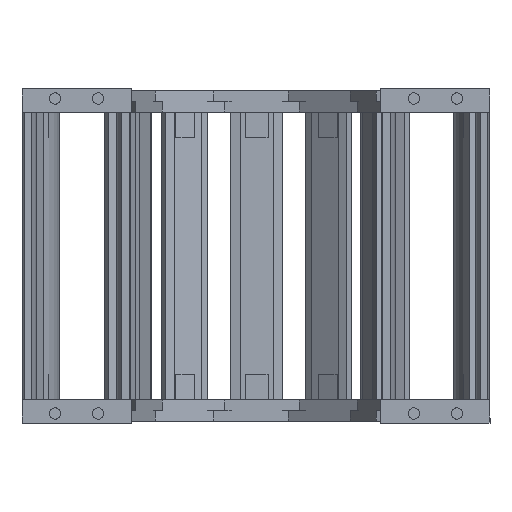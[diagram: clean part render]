
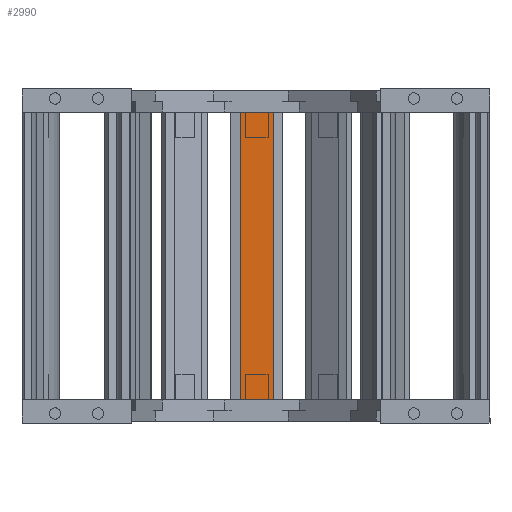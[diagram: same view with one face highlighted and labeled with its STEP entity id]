
A CAD part, left-side view. The second image highlights one B-rep face of the part: STEP entity #2990.
In plain terms, the highlighted planar face has unit normal (-1, 0.005, 0) as drawn and (0, -1, 0) by its records, which use the part's own axes.
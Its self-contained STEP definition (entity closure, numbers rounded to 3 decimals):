
#2823=DIRECTION('',(0.,0.,-1.));
#2824=VECTOR('',#2823,200.5);
#2825=CARTESIAN_POINT('',(-11.5,-72.,37.5));
#2826=LINE('',#2825,#2824);
#2852=DIRECTION('',(1.,0.,0.));
#2853=VECTOR('',#2852,23.);
#2854=CARTESIAN_POINT('',(-11.5,-72.,37.5));
#2855=LINE('',#2854,#2853);
#2909=DIRECTION('',(-1.,0.,0.));
#2910=VECTOR('',#2909,23.);
#2911=CARTESIAN_POINT('',(11.5,-72.,-163.));
#2912=LINE('',#2911,#2910);
#2937=DIRECTION('',(0.,0.,-1.));
#2938=VECTOR('',#2937,200.5);
#2939=CARTESIAN_POINT('',(11.5,-72.,37.5));
#2940=LINE('',#2939,#2938);
#2957=CARTESIAN_POINT('',(11.5,-72.,-163.));
#2958=VERTEX_POINT('',#2957);
#2959=CARTESIAN_POINT('',(-11.5,-72.,-163.));
#2960=VERTEX_POINT('',#2959);
#2969=CARTESIAN_POINT('',(11.5,-72.,37.5));
#2970=VERTEX_POINT('',#2969);
#2973=CARTESIAN_POINT('',(-11.5,-72.,37.5));
#2974=VERTEX_POINT('',#2973);
#2975=CARTESIAN_POINT('',(15.5,-72.,-163.));
#2976=DIRECTION('',(0.,1.,0.));
#2977=DIRECTION('',(-1.,0.,0.));
#2978=AXIS2_PLACEMENT_3D('',#2975,#2976,#2977);
#2979=PLANE('',#2978);
#2981=ORIENTED_EDGE('',*,*,#2980,.F.);
#2983=ORIENTED_EDGE('',*,*,#2982,.T.);
#2985=ORIENTED_EDGE('',*,*,#2984,.T.);
#2987=ORIENTED_EDGE('',*,*,#2986,.T.);
#2988=EDGE_LOOP('',(#2981,#2983,#2985,#2987));
#2989=FACE_OUTER_BOUND('',#2988,.F.);
#2990=ADVANCED_FACE('',(#2989),#2979,.F.);
#2980=EDGE_CURVE('',#2974,#2960,#2826,.T.);
#2982=EDGE_CURVE('',#2974,#2970,#2855,.T.);
#2984=EDGE_CURVE('',#2970,#2958,#2940,.T.);
#2986=EDGE_CURVE('',#2958,#2960,#2912,.T.);
